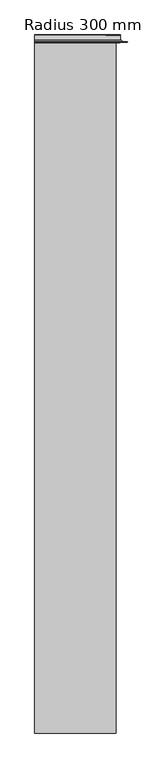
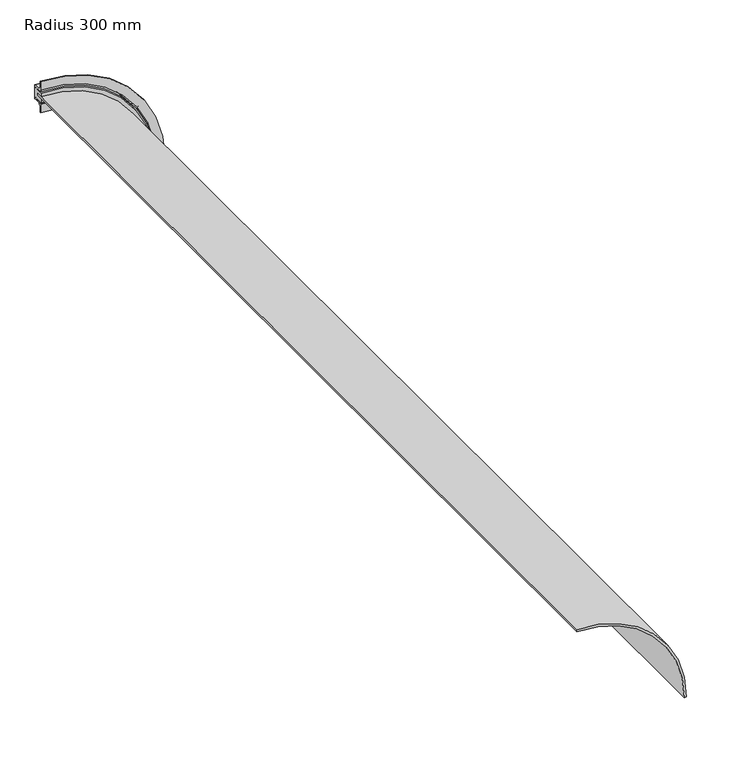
"""IFC4 building model written with IfcOpenShell, lengths in millimetres: proxy geometry, Specialy Equipment_Blindspace_TrackTrim-Click-to-Recess-Curtain-Tracks-90-Degree-Bend : Radius 300 mm."""

from ifc_helpers import new_model, si_unit, point, frame, frame_2d, origin, place, context, project, spatial, polyline, circle_curve, ellipse_curve, trimmed, segment, composite_curve, outline, extrude, source, transform, mapped, element, save
from ifc_brep_helpers import plane_surface, cylinder_surface, revolved_surface, advanced_brep


def radius_300_mm_c486e831(model_context):
    return source(origin(), model_context, "Body", "SolidModel", [
        extrude(outline(composite_curve([segment(polyline([(-345.0, 124.5), (-345.0, 130.5)]), True, "CONTINUOUS"), segment(trimmed(circle_curve(frame_2d((-345.0, -172.5)), 303.0), [point((-345.0, 130.5))], [point((-42.0, -172.5))], False, "CARTESIAN"), True, "CONTINUOUS"), segment(polyline([(-42.0, -172.5), (-48.0, -172.5)]), True, "CONTINUOUS"), segment(trimmed(circle_curve(frame_2d((-345.0, -172.5)), 297.0), [point((-48.0, -172.5))], [point((-345.0, 124.5))], True, "CARTESIAN"), True, "CONTINUOUS")], self_intersect=False)), frame((0.0, -1300.0, 0.0), z_axis=(0.0, 1.0, 0.0), x_axis=(0.0, 0.0, 1.0)), (0.0, 0.0, 1.0), 2586.4878459),
        advanced_brep(
        [(-172.5, 1270.0, -58.8933333), (-172.5, 1270.0, -48.0), (-172.5, 1286.4878459, -48.0), (-172.5, 1286.4878459, -42.0), (-172.5, 1270.0, -42.0), (-172.5, 1270.0, -31.1066667), (-172.5, 1295.5252948, -31.1066667), (-172.5, 1295.5252948, -29.1221391), (-172.5, 1273.6097179, -27.3062361), (-172.5, 1270.0, -27.3062361), (-172.5, 1272.4387528, -24.3752503), (-172.5, 1272.4387528, 0.0), (-172.5, 1274.5, 0.0), (-172.5, 1274.5, -20.0957837), (-172.5, 1279.5663509, -24.5), (-172.5, 1299.4988864, -24.5), (-172.5, 1300.0, -25.0011136), (-172.5, 1300.0, -64.9988864), (-172.5, 1299.4988864, -65.5), (-172.5, 1279.5663509, -65.5), (-172.5, 1274.5, -69.9042163), (-172.5, 1274.5, -90.0), (-172.5, 1272.4387528, -90.0), (-172.5, 1272.4387528, -65.6247497), (-172.5, 1270.0, -62.6937639), (-172.5, 1273.6097179, -62.6937639), (-172.5, 1295.5252948, -60.8778609), (-172.5, 1295.5252948, -58.8933333), (113.6066667, 1270.0, -345.0), (113.6066667, 1295.5252948, -345.0), (111.6221391, 1295.5252948, -345.0), (109.8062361, 1273.6097179, -345.0), (109.8062361, 1270.0, -345.0), (106.8752503, 1272.4387528, -345.0), (82.5, 1272.4387528, -345.0), (82.5, 1274.5, -345.0), (102.5957837, 1274.5, -345.0), (107.0, 1279.5663509, -345.0), (107.0, 1299.4988864, -345.0), (107.5011136, 1300.0, -345.0), (147.4988864, 1300.0, -345.0), (148.0, 1299.4988864, -345.0), (148.0, 1279.5663509, -345.0), (152.4042163, 1274.5, -345.0), (172.5, 1274.5, -345.0), (172.5, 1272.4387528, -345.0), (148.1247497, 1272.4387528, -345.0), (145.1937639, 1270.0, -345.0), (145.1937639, 1273.6097179, -345.0), (143.3778609, 1295.5252948, -345.0), (141.3933333, 1295.5252948, -345.0), (141.3933333, 1270.0, -345.0), (130.5, 1270.0, -345.0), (130.5, 1286.4878459, -345.0), (124.5, 1286.4878459, -345.0), (124.5, 1270.0, -345.0)],
        [
            (0, 1),
            (1, 2),
            (2, 3),
            (3, 4),
            (4, 5),
            (5, 6),
            (6, 7),
            (7, 8),
            (8, 9),
            (9, 10),
            (10, 11),
            (11, 12),
            (12, 13),
            (13, 14, circle_curve(frame((-172.5, 1275.9465479, -23.5478842), z_axis=(-1.0, 0.0, 0.0), x_axis=(0.0, 0.0, -1.0)), 3.7429265)),
            (14, 15),
            (15, 16, circle_curve(frame((-172.5, 1299.4988864, -25.0011136), z_axis=(-1.0, 0.0, 0.0), x_axis=(0.0, 0.0, -1.0)), 0.5011136)),
            (16, 17),
            (17, 18, circle_curve(frame((-172.5, 1299.4988864, -64.9988864), z_axis=(-1.0, 0.0, 0.0), x_axis=(0.0, 0.0, -1.0)), 0.5011136)),
            (18, 19),
            (19, 20, circle_curve(frame((-172.5, 1275.9465479, -66.4521158), z_axis=(-1.0, 0.0, 0.0), x_axis=(0.0, 0.0, -1.0)), 3.7429265)),
            (20, 21),
            (21, 22),
            (22, 23),
            (23, 24),
            (24, 25),
            (25, 26),
            (26, 27),
            (27, 0),
            (28, 29),
            (29, 30),
            (30, 31),
            (31, 32),
            (32, 33),
            (33, 34),
            (34, 35),
            (35, 36),
            (36, 37, circle_curve(frame((106.0478842, 1275.9465479, -345.0), z_axis=(0.0, 0.0, -1.0), x_axis=(-1.0, 0.0, 0.0)), 3.7429265)),
            (37, 38),
            (38, 39, circle_curve(frame((107.5011136, 1299.4988864, -345.0), z_axis=(0.0, 0.0, -1.0), x_axis=(-1.0, 0.0, 0.0)), 0.5011136)),
            (39, 40),
            (40, 41, circle_curve(frame((147.4988864, 1299.4988864, -345.0), z_axis=(0.0, 0.0, -1.0), x_axis=(-1.0, 0.0, 0.0)), 0.5011136)),
            (41, 42),
            (42, 43, circle_curve(frame((148.9521158, 1275.9465479, -345.0), z_axis=(0.0, 0.0, -1.0), x_axis=(-1.0, 0.0, 0.0)), 3.7429265)),
            (43, 44),
            (44, 45),
            (45, 46),
            (46, 47),
            (47, 48),
            (48, 49),
            (49, 50),
            (50, 51),
            (51, 52),
            (52, 53),
            (53, 54),
            (54, 55),
            (55, 28),
            (55, 1, circle_curve(frame((-172.5, 1270.0, -345.0), z_axis=(0.0, -1.0, 0.0), x_axis=(0.0, 0.0, 1.0)), 297.0)),
            (0, 28, circle_curve(frame((-172.5, 1270.0, -345.0), z_axis=(0.0, 1.0, 0.0), x_axis=(0.0, 0.0, 1.0)), 286.1066667)),
            (54, 2, circle_curve(frame((-172.5, 1286.4878459, -345.0), z_axis=(0.0, -1.0, 0.0), x_axis=(0.0, 0.0, 1.0)), 297.0)),
            (53, 3, circle_curve(frame((-172.5, 1286.4878459, -345.0), z_axis=(0.0, -1.0, 0.0), x_axis=(0.0, 0.0, 1.0)), 303.0)),
            (52, 4, circle_curve(frame((-172.5, 1270.0, -345.0), z_axis=(0.0, -1.0, 0.0), x_axis=(0.0, 0.0, 1.0)), 303.0)),
            (51, 5, circle_curve(frame((-172.5, 1270.0, -345.0), z_axis=(0.0, -1.0, 0.0), x_axis=(0.0, 0.0, 1.0)), 313.8933333)),
            (50, 6, circle_curve(frame((-172.5, 1295.5252948, -345.0), z_axis=(0.0, -1.0, 0.0), x_axis=(0.0, 0.0, 1.0)), 313.8933333)),
            (49, 7, circle_curve(frame((-172.5, 1295.5252948, -345.0), z_axis=(0.0, -1.0, 0.0), x_axis=(0.0, 0.0, 1.0)), 315.8778609)),
            (48, 8, circle_curve(frame((-172.5, 1273.6097179, -345.0), z_axis=(0.0, -1.0, 0.0), x_axis=(0.0, 0.0, 1.0)), 317.6937639)),
            (47, 9, circle_curve(frame((-172.5, 1270.0, -345.0), z_axis=(0.0, -1.0, 0.0), x_axis=(0.0, 0.0, 1.0)), 317.6937639)),
            (46, 10, circle_curve(frame((-172.5, 1272.4387528, -345.0), z_axis=(0.0, -1.0, 0.0), x_axis=(0.0, 0.0, 1.0)), 320.6247497)),
            (45, 11, circle_curve(frame((-172.5, 1272.4387528, -345.0), z_axis=(0.0, -1.0, 0.0), x_axis=(0.0, 0.0, 1.0)), 345.0)),
            (44, 12, circle_curve(frame((-172.5, 1274.5, -345.0), z_axis=(0.0, -1.0, 0.0), x_axis=(0.0, 0.0, 1.0)), 345.0)),
            (43, 13, circle_curve(frame((-172.5, 1274.5, -345.0), z_axis=(0.0, -1.0, 0.0), x_axis=(0.0, 0.0, 1.0)), 324.9042163)),
            (42, 14, circle_curve(frame((-172.5, 1279.5663509, -345.0), z_axis=(0.0, -1.0, 0.0), x_axis=(0.0, 0.0, 1.0)), 320.5)),
            (41, 15, circle_curve(frame((-172.5, 1299.4988864, -345.0), z_axis=(0.0, -1.0, 0.0), x_axis=(0.0, 0.0, 1.0)), 320.5)),
            (40, 16, circle_curve(frame((-172.5, 1300.0, -345.0), z_axis=(0.0, -1.0, 0.0), x_axis=(0.0, 0.0, 1.0)), 319.9988864)),
            (39, 17, circle_curve(frame((-172.5, 1300.0, -345.0), z_axis=(0.0, -1.0, 0.0), x_axis=(0.0, 0.0, 1.0)), 280.0011136)),
            (38, 18, circle_curve(frame((-172.5, 1299.4988864, -345.0), z_axis=(0.0, -1.0, 0.0), x_axis=(0.0, 0.0, 1.0)), 279.5)),
            (37, 19, circle_curve(frame((-172.5, 1279.5663509, -345.0), z_axis=(0.0, -1.0, 0.0), x_axis=(0.0, 0.0, 1.0)), 279.5)),
            (36, 20, circle_curve(frame((-172.5, 1274.5, -345.0), z_axis=(0.0, -1.0, 0.0), x_axis=(0.0, 0.0, 1.0)), 275.0957837)),
            (35, 21, circle_curve(frame((-172.5, 1274.5, -345.0), z_axis=(0.0, -1.0, 0.0), x_axis=(0.0, 0.0, 1.0)), 255.0)),
            (34, 22, circle_curve(frame((-172.5, 1272.4387528, -345.0), z_axis=(0.0, -1.0, 0.0), x_axis=(0.0, 0.0, 1.0)), 255.0)),
            (33, 23, circle_curve(frame((-172.5, 1272.4387528, -345.0), z_axis=(0.0, -1.0, 0.0), x_axis=(0.0, 0.0, 1.0)), 279.3752503)),
            (32, 24, circle_curve(frame((-172.5, 1270.0, -345.0), z_axis=(0.0, -1.0, 0.0), x_axis=(0.0, 0.0, 1.0)), 282.3062361)),
            (31, 25, circle_curve(frame((-172.5, 1273.6097179, -345.0), z_axis=(0.0, -1.0, 0.0), x_axis=(0.0, 0.0, 1.0)), 282.3062361)),
            (30, 26, circle_curve(frame((-172.5, 1295.5252948, -345.0), z_axis=(0.0, -1.0, 0.0), x_axis=(0.0, 0.0, 1.0)), 284.1221391)),
            (29, 27, circle_curve(frame((-172.5, 1295.5252948, -345.0), z_axis=(0.0, -1.0, 0.0), x_axis=(0.0, 0.0, 1.0)), 286.1066667)),
        ],
        [
            plane_surface(frame((-172.5, 1300.0, -45.0), z_axis=(-1.0, 0.0, 0.0), x_axis=(0.0, 1.0, 0.0))),
            plane_surface(frame((127.5, 1300.0, -345.0), z_axis=(0.0, 0.0, -1.0), x_axis=(0.0, 1.0, 0.0))),
            plane_surface(frame((-172.5, 1270.0, -345.0), z_axis=(0.0, -1.0, 0.0), x_axis=(0.0, 0.0, 1.0))),
            cylinder_surface(frame((-172.5, 1300.0, -345.0), z_axis=(0.0, 1.0, 0.0), x_axis=(0.0, 0.0, 1.0)), 297.0),
            plane_surface(frame((-172.5, 1286.4878459, -345.0), z_axis=(0.0, -1.0, 0.0), x_axis=(0.0, 0.0, 1.0))),
            revolved_surface(polyline([(-172.5, 1286.4878459, -42.0), (-172.5, 1270.0, -42.0)]), (-172.5, 1300.0, -345.0), (0.0, 1.0, 0.0)),
            cylinder_surface(frame((-172.5, 1300.0, -345.0), z_axis=(0.0, 1.0, 0.0), x_axis=(0.0, 0.0, 1.0)), 313.8933333),
            plane_surface(frame((-172.5, 1295.5252948, -345.0), z_axis=(0.0, -1.0, 0.0), x_axis=(0.0, 0.0, 1.0))),
            revolved_surface(polyline([(-172.5, 1295.5252948, -29.1221391), (-172.5, 1273.6097179, -27.3062361)]), (-172.5, 1300.0, -345.0), (0.0, 1.0, 0.0)),
            revolved_surface(polyline([(-172.5, 1273.6097179, -27.30623609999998), (-172.5, 1270.0, -27.30623609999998)]), (-172.5, 1300.0, -345.0), (0.0, 1.0, 0.0)),
            revolved_surface(polyline([(-172.5, 1270.0, -27.3062361), (-172.5, 1272.4387528, -24.3752503)]), (-172.5, 1300.0, -345.0), (0.0, 1.0, 0.0)),
            plane_surface(frame((-172.5, 1272.4387528, -345.0), z_axis=(0.0, -1.0, 0.0), x_axis=(0.0, 0.0, 1.0))),
            cylinder_surface(frame((-172.5, 1300.0, -345.0), z_axis=(0.0, 1.0, 0.0), x_axis=(0.0, 0.0, 1.0)), 345.0),
            plane_surface(frame((-172.5, 1274.5, -345.0), z_axis=(0.0, 1.0, 0.0), x_axis=(0.0, 0.0, 1.0))),
            revolved_surface(trimmed(ellipse_curve(frame((-172.5, 1275.9465479, -23.5478842), z_axis=(-1.0, 0.0, 0.0), x_axis=(0.0, 0.0, -1.0)), 3.7429265, 3.7429265), [point((-172.5, 1274.5, -20.0957837))], [point((-172.5, 1279.5663509, -24.5))], True, "CARTESIAN"), (-172.5, 1300.0, -345.0), (0.0, 1.0, 0.0)),
            cylinder_surface(frame((-172.5, 1300.0, -345.0), z_axis=(0.0, 1.0, 0.0), x_axis=(0.0, 0.0, 1.0)), 320.5),
            revolved_surface(trimmed(ellipse_curve(frame((-172.5, 1299.4988864, -25.0011136), z_axis=(-1.0, 0.0, 0.0), x_axis=(0.0, 0.0, -1.0)), 0.5011136, 0.5011136), [point((-172.5, 1299.4988864, -24.5))], [point((-172.5, 1300.0, -25.0011136))], True, "CARTESIAN"), (-172.5, 1300.0, -345.0), (0.0, 1.0, 0.0)),
            plane_surface(frame((-172.5, 1300.0, -345.0), z_axis=(0.0, 1.0, 0.0), x_axis=(0.0, 0.0, 1.0))),
            revolved_surface(trimmed(ellipse_curve(frame((-172.5, 1299.4988864, -64.9988864), z_axis=(-1.0, 0.0, 0.0), x_axis=(0.0, 0.0, -1.0)), 0.5011136, 0.5011136), [point((-172.5, 1300.0, -64.9988864))], [point((-172.5, 1299.4988864, -65.5))], True, "CARTESIAN"), (-172.5, 1300.0, -345.0), (0.0, 1.0, 0.0)),
            revolved_surface(polyline([(-172.5, 1299.4988864, -65.5), (-172.5, 1279.5663509, -65.5)]), (-172.5, 1300.0, -345.0), (0.0, 1.0, 0.0)),
            revolved_surface(trimmed(ellipse_curve(frame((-172.5, 1275.9465479, -66.4521158), z_axis=(-1.0, 0.0, 0.0), x_axis=(0.0, 0.0, -1.0)), 3.7429265, 3.7429265), [point((-172.5, 1279.5663509, -65.5))], [point((-172.5, 1274.5, -69.9042163))], True, "CARTESIAN"), (-172.5, 1300.0, -345.0), (0.0, 1.0, 0.0)),
            revolved_surface(polyline([(-172.5, 1274.5, -90.0), (-172.5, 1272.4387528, -90.0)]), (-172.5, 1300.0, -345.0), (0.0, 1.0, 0.0)),
            revolved_surface(polyline([(-172.5, 1272.4387528, -65.6247497), (-172.5, 1270.0, -62.6937639)]), (-172.5, 1300.0, -345.0), (0.0, 1.0, 0.0)),
            cylinder_surface(frame((-172.5, 1300.0, -345.0), z_axis=(0.0, 1.0, 0.0), x_axis=(0.0, 0.0, 1.0)), 282.3062361),
            revolved_surface(polyline([(-172.5, 1273.6097179, -62.6937639), (-172.5, 1295.5252948, -60.8778609)]), (-172.5, 1300.0, -345.0), (0.0, 1.0, 0.0)),
            revolved_surface(polyline([(-172.5, 1295.5252948, -58.893333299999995), (-172.5, 1270.0, -58.893333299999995)]), (-172.5, 1300.0, -345.0), (0.0, 1.0, 0.0)),
        ],
        [
            (0, [[1, 2, 3, 4, 5, 6, 7, 8, 9, 10, 11, 12, 13, 14, 15, 16, 17, 18, 19, 20, 21, 22, 23, 24, 25, 26, 27, 28]]),
            (1, [[29, 30, 31, 32, 33, 34, 35, 36, 37, 38, 39, 40, 41, 42, 43, 44, 45, 46, 47, 48, 49, 50, 51, 52, 53, 54, 55, 56]]),
            (2, [[57, -1, 58, -56]]),
            (3, [[59, -2, -57, -55]]),
            (4, [[60, -3, -59, -54]]),
            (5, [[61, -4, -60, -53]]),
            (2, [[62, -5, -61, -52]]),
            (6, [[63, -6, -62, -51]]),
            (7, [[64, -7, -63, -50]]),
            (8, [[65, -8, -64, -49]]),
            (9, [[66, -9, -65, -48]]),
            (10, [[67, -10, -66, -47]]),
            (11, [[68, -11, -67, -46]]),
            (12, [[69, -12, -68, -45]]),
            (13, [[70, -13, -69, -44]]),
            (14, [[71, -14, -70, -43]]),
            (15, [[72, -15, -71, -42]]),
            (16, [[73, -16, -72, -41]]),
            (17, [[74, -17, -73, -40]]),
            (18, [[75, -18, -74, -39]]),
            (19, [[76, -19, -75, -38]]),
            (20, [[77, -20, -76, -37]]),
            (13, [[78, -21, -77, -36]]),
            (21, [[79, -22, -78, -35]]),
            (11, [[80, -23, -79, -34]]),
            (22, [[81, -24, -80, -33]]),
            (23, [[82, -25, -81, -32]]),
            (24, [[83, -26, -82, -31]]),
            (7, [[84, -27, -83, -30]]),
            (25, [[-58, -28, -84, -29]]),
        ],
    ),
    ])


if __name__ == "__main__":
    model = new_model("IFC4")
    model_context = context("Model", 3, world=origin())
    ifc_project = project(units=[si_unit("LENGTHUNIT", "METRE", prefix="MILLI")], contexts=[model_context])
    site = spatial("IfcSite", under=ifc_project)
    building = spatial("IfcBuilding", under=site)
    placement = place(None, origin())
    radius_300_mm_shape = radius_300_mm_c486e831(model_context)
    element("IfcBuildingElementProxy", 1, Name="Specialy Equipment_Blindspace_TrackTrim-Click-to-Recess-Curtain-Tracks-90-Degree-Bend : Radius 300 mm", ObjectType="Specialy Equipment_Blindspace_TrackTrim-Click-to-Recess-Curtain-Tracks-90-Degree-Bend : Radius 300 mm", at=placement, inside=building, context=model_context, shape_type="MappedRepresentation", body=[
        mapped(radius_300_mm_shape, transform((0.0, 0.0, 0.0), x_axis=(1.0, 0.0, 0.0), y_axis=(0.0, 1.0, 0.0), z_axis=(0.0, 0.0, 1.0))),
    ])
    save(model, "model.ifc")
